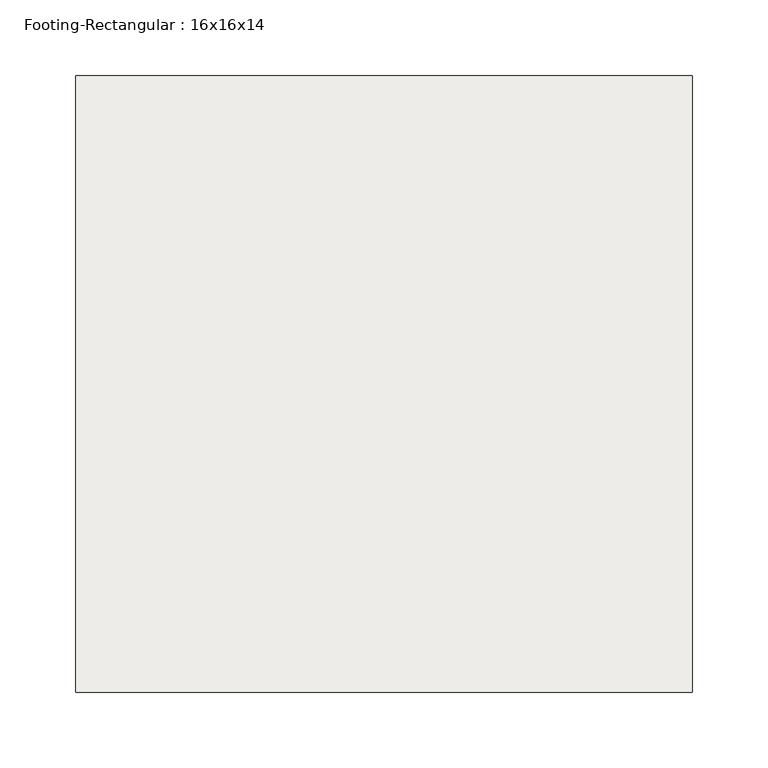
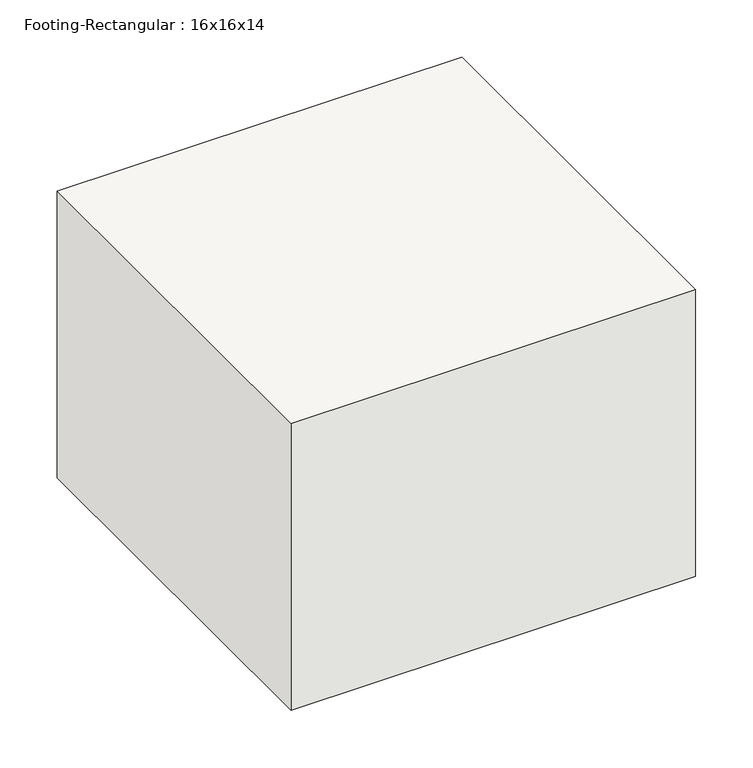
"""IFC4 building model written with IfcOpenShell, lengths in millimetres: slab geometry, Footing-Rectangular : 16x16x14."""

from ifc_helpers import new_model, si_unit, frame, origin, place, context, project, spatial, polyline, outline, extrude, source, transform, mapped, element, save


def footing_rectangular_16x16x14_90ff128c(model_context):
    return source(origin(), model_context, "Body", "SweptSolid", [
        extrude(outline(polyline([(203.2, 203.2), (203.2, -203.2), (-203.2, -203.2), (-203.2, 203.2), (203.2, 203.2)])), frame((0.0, 0.0, -304.8), z_axis=(0.0, 0.0, 1.0), x_axis=(1.0, 0.0, 0.0)), (0.0, 0.0, 1.0), 304.8),
    ])


if __name__ == "__main__":
    model = new_model("IFC4")
    model_context = context("Model", 3, world=origin())
    ifc_project = project(units=[si_unit("LENGTHUNIT", "METRE", prefix="MILLI")], contexts=[model_context])
    site = spatial("IfcSite", under=ifc_project)
    building = spatial("IfcBuilding", under=site)
    placement = place(None, origin())
    footing_rectangular_16x16x14_shape = footing_rectangular_16x16x14_90ff128c(model_context)
    element("IfcSlab", 1, ObjectType="Footing-Rectangular : 16x16x14", at=placement, inside=building, context=model_context, shape_type="MappedRepresentation", body=[
        mapped(footing_rectangular_16x16x14_shape, transform((0.0, 0.0, 0.0), x_axis=(1.0, 0.0, 0.0), y_axis=(0.0, 1.0, 0.0), z_axis=(0.0, 0.0, 1.0))),
    ])
    save(model, "model.ifc")
